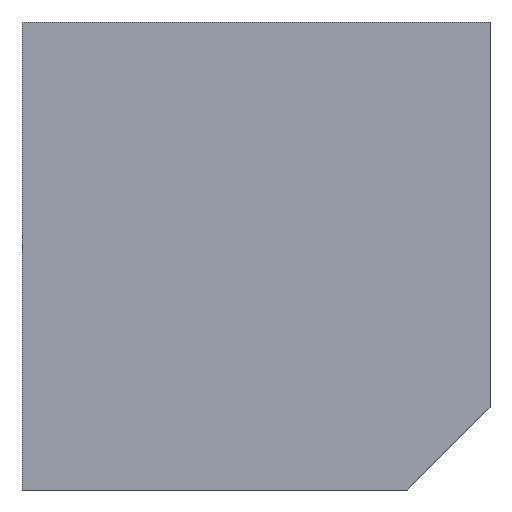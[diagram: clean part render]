
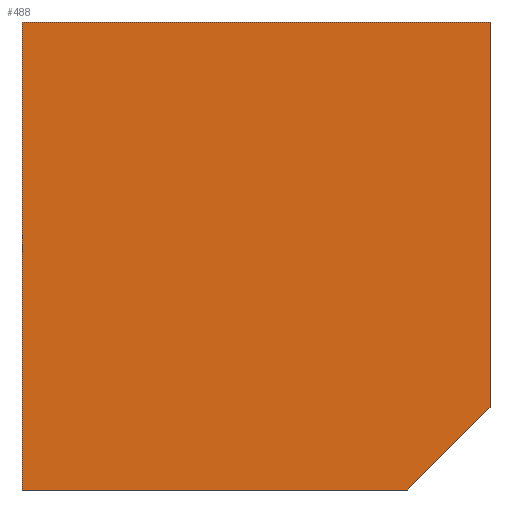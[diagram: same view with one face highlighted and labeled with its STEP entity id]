
A CAD part, front view. The second image highlights one B-rep face of the part: STEP entity #488.
In plain terms, the highlighted planar face has unit normal (0, -1, 0).
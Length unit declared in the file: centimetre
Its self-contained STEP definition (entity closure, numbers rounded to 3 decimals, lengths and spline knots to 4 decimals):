
#10 = ORIENTED_EDGE ( 'NONE', *, *, #561, .T. ) ;
#17 = VECTOR ( 'NONE', #570, 100. ) ;
#26 = VERTEX_POINT ( 'NONE', #314 ) ;
#35 = AXIS2_PLACEMENT_3D ( 'NONE', #323, #589, #499 ) ;
#39 = CARTESIAN_POINT ( 'NONE',  ( 822.8707, 0., 0. ) ) ;
#59 = CARTESIAN_POINT ( 'NONE',  ( 1000., 0., 177.1293 ) ) ;
#63 = CARTESIAN_POINT ( 'NONE',  ( 0., 0., 0. ) ) ;
#70 = EDGE_CURVE ( 'NONE', #457, #26, #495, .T. ) ;
#87 = FACE_OUTER_BOUND ( 'NONE', #549, .T. ) ;
#126 = ORIENTED_EDGE ( 'NONE', *, *, #171, .T. ) ;
#136 = EDGE_CURVE ( 'NONE', #26, #598, #569, .T. ) ;
#146 = VECTOR ( 'NONE', #421, 100. ) ;
#171 = EDGE_CURVE ( 'NONE', #457, #322, #512, .T. ) ;
#203 = VECTOR ( 'NONE', #297, 100. ) ;
#213 = ORIENTED_EDGE ( 'NONE', *, *, #70, .F. ) ;
#281 = CARTESIAN_POINT ( 'NONE',  ( 1000., 0., 1000. ) ) ;
#284 = LINE ( 'NONE', #471, #17 ) ;
#297 = DIRECTION ( 'NONE',  ( 1., 0., 0. ) ) ;
#311 = CARTESIAN_POINT ( 'NONE',  ( 0., 0., 1000. ) ) ;
#314 = CARTESIAN_POINT ( 'NONE',  ( 1000., 0., 1000. ) ) ;
#322 = VERTEX_POINT ( 'NONE', #63 ) ;
#323 = CARTESIAN_POINT ( 'NONE',  ( 0., 0., 1000. ) ) ;
#329 = DIRECTION ( 'NONE',  ( 0., 0., -1. ) ) ;
#367 = DIRECTION ( 'NONE',  ( 0.707, 0., 0.707 ) ) ;
#374 = LINE ( 'NONE', #550, #419 ) ;
#397 = VERTEX_POINT ( 'NONE', #39 ) ;
#405 = PLANE ( 'NONE',  #35 ) ;
#418 = ORIENTED_EDGE ( 'NONE', *, *, #136, .F. ) ;
#419 = VECTOR ( 'NONE', #367, 100. ) ;
#421 = DIRECTION ( 'NONE',  ( 0., 0., -1. ) ) ;
#433 = EDGE_CURVE ( 'NONE', #397, #598, #374, .T. ) ;
#457 = VERTEX_POINT ( 'NONE', #545 ) ;
#467 = CARTESIAN_POINT ( 'NONE',  ( 0., 0., 1000. ) ) ;
#471 = CARTESIAN_POINT ( 'NONE',  ( 0., 0., 0. ) ) ;
#488 = ADVANCED_FACE ( 'NONE', ( #87 ), #405, .F. ) ;
#495 = LINE ( 'NONE', #311, #203 ) ;
#499 = DIRECTION ( 'NONE',  ( 0., 0., 1. ) ) ;
#512 = LINE ( 'NONE', #467, #146 ) ;
#532 = ORIENTED_EDGE ( 'NONE', *, *, #433, .T. ) ;
#540 = VECTOR ( 'NONE', #329, 100. ) ;
#545 = CARTESIAN_POINT ( 'NONE',  ( 0., 0., 1000. ) ) ;
#549 = EDGE_LOOP ( 'NONE', ( #10, #532, #418, #213, #126 ) ) ;
#550 = CARTESIAN_POINT ( 'NONE',  ( 1000., 0., 177.1293 ) ) ;
#561 = EDGE_CURVE ( 'NONE', #322, #397, #284, .T. ) ;
#569 = LINE ( 'NONE', #281, #540 ) ;
#570 = DIRECTION ( 'NONE',  ( 1., 0., 0. ) ) ;
#589 = DIRECTION ( 'NONE',  ( 0., 1., 0. ) ) ;
#598 = VERTEX_POINT ( 'NONE', #59 ) ;
